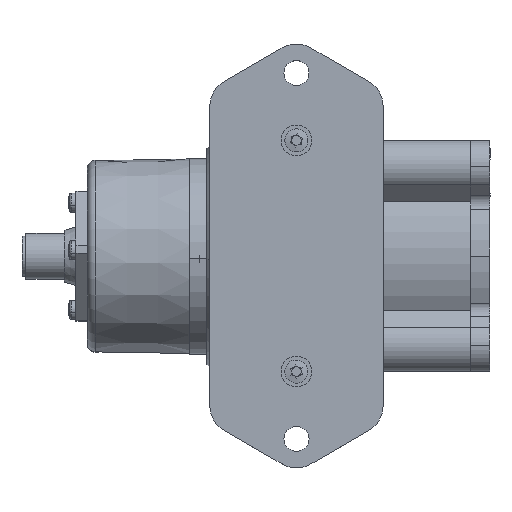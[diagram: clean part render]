
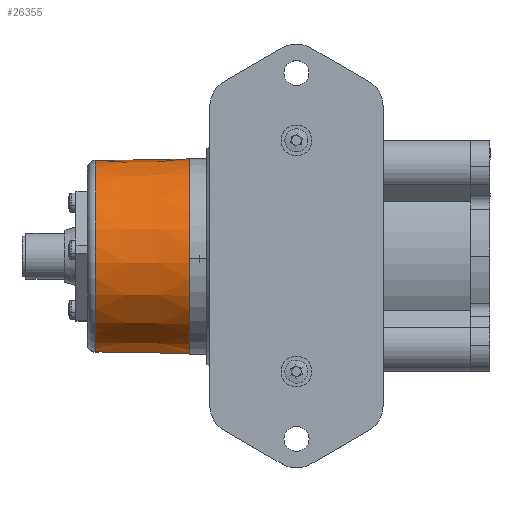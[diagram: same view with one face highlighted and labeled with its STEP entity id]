
A CAD part, top view. The second image highlights one B-rep face of the part: STEP entity #26355.
In plain terms, the highlighted conical face has half-angle 1 degrees and reference radius 25.4 mm.
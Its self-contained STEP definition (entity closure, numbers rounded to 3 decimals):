
#1780 = VERTEX_POINT ( 'NONE', #5420 ) ;
#1782 = EDGE_CURVE ( 'NONE', #1783, #1780, #5419, .T. ) ;
#1783 = VERTEX_POINT ( 'NONE', #5414 ) ;
#5414 = CARTESIAN_POINT ( 'NONE',  ( -64.535, 24.827, -2.686 ) ) ;
#5415 = DIRECTION ( 'NONE',  ( 0., -0.994, 0.108 ) ) ;
#5416 = DIRECTION ( 'NONE',  ( 1., 0., 0. ) ) ;
#5417 = CARTESIAN_POINT ( 'NONE',  ( -64.535, 0., 0. ) ) ;
#5418 = AXIS2_PLACEMENT_3D ( 'NONE', #5417, #5416, #5415 ) ;
#5419 = CIRCLE ( 'NONE', #5418, 24.972 ) ;
#5420 = CARTESIAN_POINT ( 'NONE',  ( -64.535, -24.827, 2.686 ) ) ;
#6579 = CARTESIAN_POINT ( 'NONE',  ( -40., 0., 0. ) ) ;
#6580 = AXIS2_PLACEMENT_3D ( 'NONE', #6579, #6632, #6631 ) ;
#6581 = CIRCLE ( 'NONE', #6580, 25.4 ) ;
#6582 = CARTESIAN_POINT ( 'NONE',  ( -40., -25.253, 2.732 ) ) ;
#6583 = DIRECTION ( 'NONE',  ( 1., -0.017, 0.002 ) ) ;
#6584 = VECTOR ( 'NONE', #6583, 1000. ) ;
#6585 = CARTESIAN_POINT ( 'NONE',  ( -40., -25.253, 2.732 ) ) ;
#6586 = LINE ( 'NONE', #6585, #6584 ) ;
#6630 = CARTESIAN_POINT ( 'NONE',  ( -40., 25.253, -2.732 ) ) ;
#6631 = DIRECTION ( 'NONE',  ( 0., -0.994, 0.108 ) ) ;
#6632 = DIRECTION ( 'NONE',  ( -1., 0., 0. ) ) ;
#6814 = DIRECTION ( 'NONE',  ( 1., 0.017, -0.002 ) ) ;
#6815 = VECTOR ( 'NONE', #6814, 1000. ) ;
#6816 = CARTESIAN_POINT ( 'NONE',  ( -40., 25.253, -2.732 ) ) ;
#6817 = LINE ( 'NONE', #6816, #6815 ) ;
#6873 = FACE_OUTER_BOUND ( 'NONE', #26356, .T. ) ;
#6901 = DIRECTION ( 'NONE',  ( 0., 0.994, -0.108 ) ) ;
#6902 = DIRECTION ( 'NONE',  ( 1., 0., 0. ) ) ;
#6903 = AXIS2_PLACEMENT_3D ( 'NONE', #6905, #6902, #6901 ) ;
#6904 = CONICAL_SURFACE ( 'NONE', #6903, 25.4, 0.017 ) ;
#6905 = CARTESIAN_POINT ( 'NONE',  ( -40., 0., 0. ) ) ;
#26239 = ORIENTED_EDGE ( 'NONE', *, *, #1782, .T. ) ;
#26240 = ORIENTED_EDGE ( 'NONE', *, *, #26243, .T. ) ;
#26243 = EDGE_CURVE ( 'NONE', #1780, #26246, #6586, .T. ) ;
#26246 = VERTEX_POINT ( 'NONE', #6582 ) ;
#26247 = ORIENTED_EDGE ( 'NONE', *, *, #26248, .T. ) ;
#26248 = EDGE_CURVE ( 'NONE', #26246, #26249, #6581, .T. ) ;
#26249 = VERTEX_POINT ( 'NONE', #6630 ) ;
#26250 = ORIENTED_EDGE ( 'NONE', *, *, #26330, .F. ) ;
#26330 = EDGE_CURVE ( 'NONE', #1783, #26249, #6817, .T. ) ;
#26355 = ADVANCED_FACE ( 'NONE', ( #6873 ), #6904, .T. ) ;
#26356 = EDGE_LOOP ( 'NONE', ( #26239, #26240, #26247, #26250 ) ) ;
